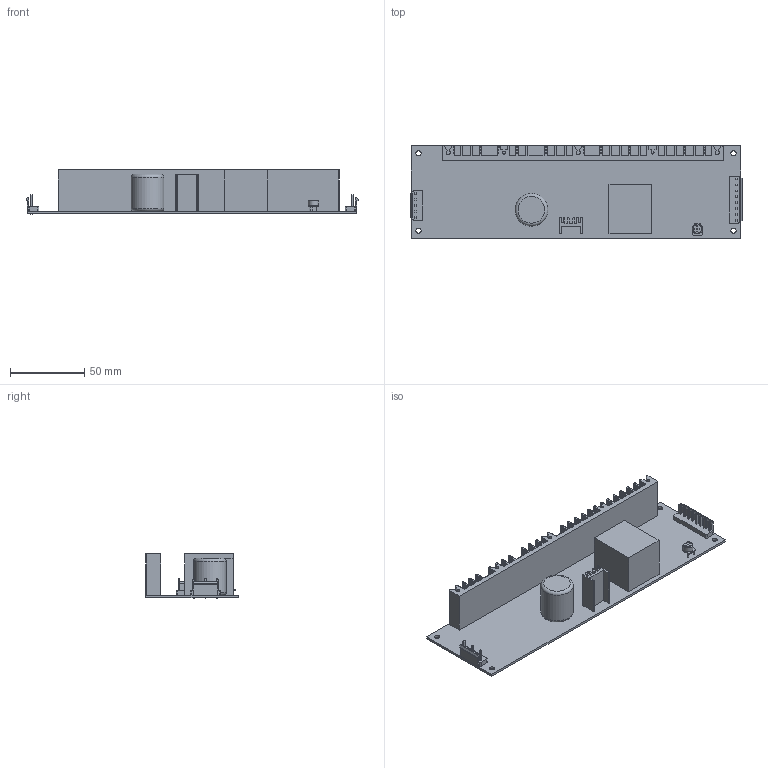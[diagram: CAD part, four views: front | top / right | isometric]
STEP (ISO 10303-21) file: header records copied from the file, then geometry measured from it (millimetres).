
FILE_DESCRIPTION((''),'2;1');
FILE_NAME('W:\mechanical\機構工程圖\3D圖檔\3D Outline-2020\已完成待審核\LPP-100.stp','2020-06-18T10:58:06',('shirley'),(''),'Autodesk Inventor 2010','Autodesk Inventor 2010','');
FILE_SCHEMA(('AUTOMOTIVE_DESIGN { 1 0 10303 214 1 1 1 1 }'));
Length unit declared in the file: millimetre
Products named in the file (9): LPP-100; PCB; HS1; HS2; T1; VR-1; JS-1120-05N2,4; JS-1120-08; C5
Assembly tree (8 placements, depth 2):
  LPP-100
    PCB
    HS1
    HS2
    T1
    VR-1
    JS-1120-05N2,4
    JS-1120-08
    C5
Bounding box: 223.39 x 62 x 29.8 mm (x, y, z)
Volume: 88960.9 mm3; surface area: 64102.7 mm2
Topology: 8 solids, 8 shells, 1142 faces, 3536 edges, 2639 vertices
Faces by surface type: plane 1011, cylinder 128, torus 3
Full cylindrical faces by diameter (mm): 0.8 x3, 3.5 x4, 6.747 x1, 22 x1
Entity records: 39847 total; most frequent: CARTESIAN_POINT 7144, ORIENTED_EDGE 6606, DIRECTION 6137, EDGE_CURVE 3303, VECTOR 3225, LINE 3225, VERTEX_POINT 2207, AXIS2_PLACEMENT_3D 1456
